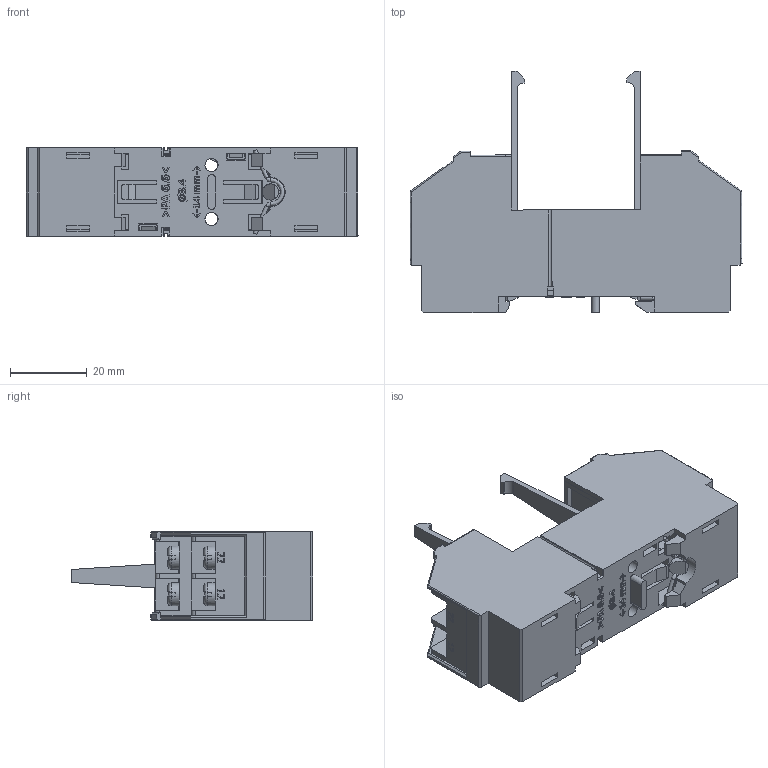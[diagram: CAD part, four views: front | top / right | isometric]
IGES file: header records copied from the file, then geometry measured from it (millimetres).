
Global section: file name: V16; native system: Autodesk Inventor 2014; preprocessor: unknown; author: noey; date: 20140523.115245; units: millimetre
Bounding box: 86.23 x 62.71 x 23 mm (x, y, z)
Volume: 40600.9 mm3; surface area: 37081.1 mm2
Topology: 2 solids, 2 shells, 2283 faces, 6543 edges, 4283 vertices
Faces by surface type: bspline 2283
